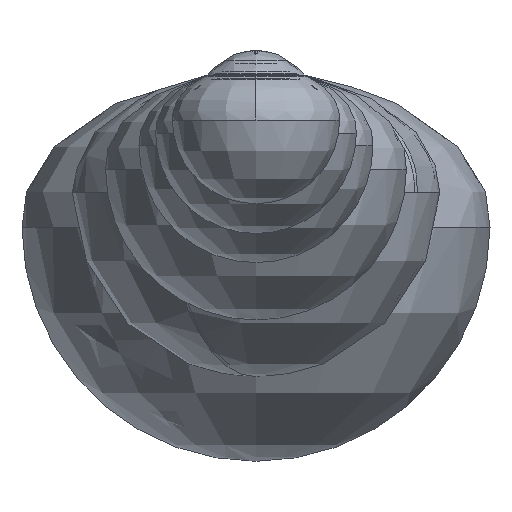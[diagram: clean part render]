
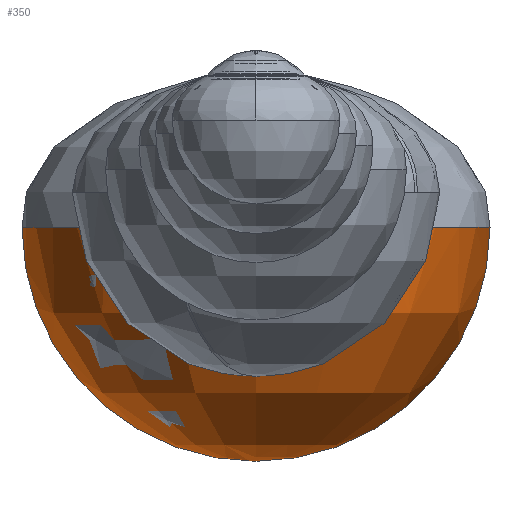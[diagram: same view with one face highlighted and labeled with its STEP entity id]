
A CAD part, left-side view. The second image highlights one B-rep face of the part: STEP entity #350.
In plain terms, the highlighted free-form (B-spline) face has degree [2, 2] with [9, 5] control points.
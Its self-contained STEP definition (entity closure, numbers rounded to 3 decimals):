
#350=ADVANCED_FACE('',(#956),#11429,.T.);
#956=FACE_OUTER_BOUND('',#1586,.T.);
#1586=EDGE_LOOP('',(#2783,#2784,#2785,#2786));
#2783=ORIENTED_EDGE('',*,*,#5765,.T.);
#2784=ORIENTED_EDGE('',*,*,#5764,.T.);
#2785=ORIENTED_EDGE('',*,*,#5744,.F.);
#2786=ORIENTED_EDGE('',*,*,#5766,.T.);
#5744=EDGE_CURVE('',#9983,#9984,#7308,.T.);
#5764=EDGE_CURVE('',#10004,#9984,#7320,.T.);
#5765=EDGE_CURVE('',#10005,#10004,#7321,.T.);
#5766=EDGE_CURVE('',#9983,#10005,#7322,.T.);
#7308=TRIMMED_CURVE($,#8348,(#19571),(#19572),.T.,.CARTESIAN.);
#7320=TRIMMED_CURVE($,#8360,(#19685),(#19686),.T.,.CARTESIAN.);
#7321=TRIMMED_CURVE($,#8361,(#19688),(#19689),.T.,.CARTESIAN.);
#7322=TRIMMED_CURVE($,#8362,(#19691),(#19692),.T.,.CARTESIAN.);
#8348=CIRCLE('',#11914,140.);
#8360=CIRCLE('',#11926,140.);
#8361=CIRCLE('',#11927,140.);
#8362=CIRCLE('',#11928,140.);
#9983=VERTEX_POINT('',#19506);
#9984=VERTEX_POINT('',#19507);
#10004=VERTEX_POINT('',#19527);
#10005=VERTEX_POINT('',#19528);
#11429=(
BOUNDED_SURFACE()
B_SPLINE_SURFACE(2,2,((#19095,#19096,#19097,#19098,#19099),(#19100,#19101,
#19102,#19103,#19104),(#19105,#19106,#19107,#19108,#19109),(#19110,#19111,
#19112,#19113,#19114),(#19115,#19116,#19117,#19118,#19119),(#19120,#19121,
#19122,#19123,#19124),(#19125,#19126,#19127,#19128,#19129),(#19130,#19131,
#19132,#19133,#19134),(#19135,#19136,#19137,#19138,#19139)),
 .UNSPECIFIED.,.T.,.F.,.F.)
B_SPLINE_SURFACE_WITH_KNOTS((3,2,2,2,3),(3,2,3),(0.,219.911,439.823,
659.734,879.646),(0.,219.911,439.823),
 .UNSPECIFIED.)
GEOMETRIC_REPRESENTATION_ITEM()
RATIONAL_B_SPLINE_SURFACE(((1.,0.707,1.,0.707,1.),
(0.707,0.5,0.707,0.5,0.707),(1.,0.707,
1.,0.707,1.),(0.707,0.5,0.707,0.5,0.707),
(1.,0.707,1.,0.707,1.),(0.707,0.5,0.707,
0.5,0.707),(1.,0.707,1.,0.707,1.),(0.707,
0.5,0.707,0.5,0.707),(1.,0.707,1.,0.707,
1.)))
REPRESENTATION_ITEM('')
SURFACE()
);
#11914=AXIS2_PLACEMENT_3D($,#19570,#13575,#13576);
#11926=AXIS2_PLACEMENT_3D($,#19684,#13599,#13600);
#11927=AXIS2_PLACEMENT_3D($,#19687,#13601,#13602);
#11928=AXIS2_PLACEMENT_3D($,#19690,#13603,#13604);
#13575=DIRECTION('',(0.,0.,1.));
#13576=DIRECTION('',(-1.,0.,0.));
#13599=DIRECTION('',(-1.,0.,0.));
#13600=DIRECTION('',(0.,0.,-1.));
#13601=DIRECTION('',(-1.,0.,0.));
#13602=DIRECTION('',(0.,1.,0.));
#13603=DIRECTION('',(0.,0.,-1.));
#13604=DIRECTION('',(-1.,0.,0.));
#19095=CARTESIAN_POINT('',(1500.,0.,-245.718));
#19096=CARTESIAN_POINT('',(1500.,-140.,-245.718));
#19097=CARTESIAN_POINT('',(1500.,-140.,-105.718));
#19098=CARTESIAN_POINT('',(1500.,-140.,34.282));
#19099=CARTESIAN_POINT('',(1500.,0.,34.282));
#19100=CARTESIAN_POINT('',(1500.,0.,-245.718));
#19101=CARTESIAN_POINT('',(1640.,-140.,-245.718));
#19102=CARTESIAN_POINT('',(1640.,-140.,-105.718));
#19103=CARTESIAN_POINT('',(1640.,-140.,34.282));
#19104=CARTESIAN_POINT('',(1500.,0.,34.282));
#19105=CARTESIAN_POINT('',(1500.,0.,-245.718));
#19106=CARTESIAN_POINT('',(1640.,0.,-245.718));
#19107=CARTESIAN_POINT('',(1640.,0.,-105.718));
#19108=CARTESIAN_POINT('',(1640.,0.,34.282));
#19109=CARTESIAN_POINT('',(1500.,0.,34.282));
#19110=CARTESIAN_POINT('',(1500.,0.,-245.718));
#19111=CARTESIAN_POINT('',(1640.,140.,-245.718));
#19112=CARTESIAN_POINT('',(1640.,140.,-105.718));
#19113=CARTESIAN_POINT('',(1640.,140.,34.282));
#19114=CARTESIAN_POINT('',(1500.,0.,34.282));
#19115=CARTESIAN_POINT('',(1500.,0.,-245.718));
#19116=CARTESIAN_POINT('',(1500.,140.,-245.718));
#19117=CARTESIAN_POINT('',(1500.,140.,-105.718));
#19118=CARTESIAN_POINT('',(1500.,140.,34.282));
#19119=CARTESIAN_POINT('',(1500.,0.,34.282));
#19120=CARTESIAN_POINT('',(1500.,0.,-245.718));
#19121=CARTESIAN_POINT('',(1360.,140.,-245.718));
#19122=CARTESIAN_POINT('',(1360.,140.,-105.718));
#19123=CARTESIAN_POINT('',(1360.,140.,34.282));
#19124=CARTESIAN_POINT('',(1500.,0.,34.282));
#19125=CARTESIAN_POINT('',(1500.,0.,-245.718));
#19126=CARTESIAN_POINT('',(1360.,0.,-245.718));
#19127=CARTESIAN_POINT('',(1360.,0.,-105.718));
#19128=CARTESIAN_POINT('',(1360.,0.,34.282));
#19129=CARTESIAN_POINT('',(1500.,0.,34.282));
#19130=CARTESIAN_POINT('',(1500.,0.,-245.718));
#19131=CARTESIAN_POINT('',(1360.,-140.,-245.718));
#19132=CARTESIAN_POINT('',(1360.,-140.,-105.718));
#19133=CARTESIAN_POINT('',(1360.,-140.,34.282));
#19134=CARTESIAN_POINT('',(1500.,0.,34.282));
#19135=CARTESIAN_POINT('',(1500.,0.,-245.718));
#19136=CARTESIAN_POINT('',(1500.,-140.,-245.718));
#19137=CARTESIAN_POINT('',(1500.,-140.,-105.718));
#19138=CARTESIAN_POINT('',(1500.,-140.,34.282));
#19139=CARTESIAN_POINT('',(1500.,0.,34.282));
#19506=CARTESIAN_POINT('',(1360.,0.,-105.718));
#19507=CARTESIAN_POINT('',(1500.,-140.,-105.718));
#19527=CARTESIAN_POINT('',(1500.,0.,-245.718));
#19528=CARTESIAN_POINT('',(1500.,140.,-105.718));
#19570=CARTESIAN_POINT('',(1500.,0.,-105.718));
#19571=CARTESIAN_POINT('',(1360.,0.,-105.718));
#19572=CARTESIAN_POINT('',(1500.,-140.,-105.718));
#19684=CARTESIAN_POINT('',(1500.,0.,-105.718));
#19685=CARTESIAN_POINT('',(1500.,0.,-245.718));
#19686=CARTESIAN_POINT('',(1500.,-140.,-105.718));
#19687=CARTESIAN_POINT('',(1500.,0.,-105.718));
#19688=CARTESIAN_POINT('',(1500.,140.,-105.718));
#19689=CARTESIAN_POINT('',(1500.,0.,-245.718));
#19690=CARTESIAN_POINT('',(1500.,0.,-105.718));
#19691=CARTESIAN_POINT('',(1360.,0.,-105.718));
#19692=CARTESIAN_POINT('',(1500.,140.,-105.718));
